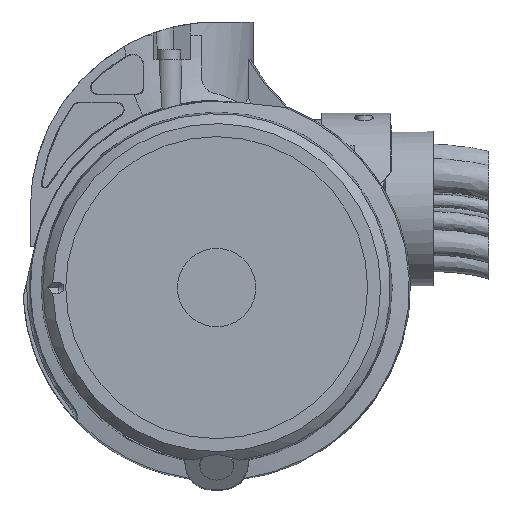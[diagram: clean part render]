
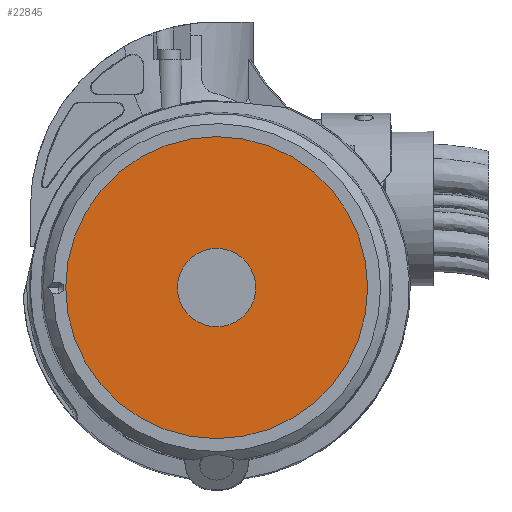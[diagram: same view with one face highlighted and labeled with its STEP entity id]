
A CAD part, left-side view. The second image highlights one B-rep face of the part: STEP entity #22845.
In plain terms, the highlighted planar face has unit normal (-1, 0, 0).
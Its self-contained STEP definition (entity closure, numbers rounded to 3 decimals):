
#3386 = EDGE_LOOP ( 'NONE', ( #11063 ) ) ;
#4537 = CARTESIAN_POINT ( 'NONE',  ( 1747.5, 0., 2205. ) ) ;
#5093 = DIRECTION ( 'NONE',  ( -1., 0., 0. ) ) ;
#5347 = FACE_OUTER_BOUND ( 'NONE', #3386, .T. ) ;
#5809 = AXIS2_PLACEMENT_3D ( 'NONE', #23955, #5093, #19833 ) ;
#6353 = CIRCLE ( 'NONE', #20006, 21. ) ;
#6859 = DIRECTION ( 'NONE',  ( 0., -1., 0. ) ) ;
#7203 = DIRECTION ( 'NONE',  ( 0., -1., 0. ) ) ;
#7562 = FACE_BOUND ( 'NONE', #12850, .T. ) ;
#8684 = EDGE_CURVE ( 'NONE', #26411, #26411, #6353, .T. ) ;
#11063 = ORIENTED_EDGE ( 'NONE', *, *, #23229, .T. ) ;
#12850 = EDGE_LOOP ( 'NONE', ( #19017 ) ) ;
#12930 = CIRCLE ( 'NONE', #21274, 81. ) ;
#14939 = DIRECTION ( 'NONE',  ( -1., 0., 0. ) ) ;
#15620 = PLANE ( 'NONE',  #5809 ) ;
#15943 = DIRECTION ( 'NONE',  ( -1., 0., 0. ) ) ;
#15961 = CARTESIAN_POINT ( 'NONE',  ( 1747.5, -21., 2205. ) ) ;
#19017 = ORIENTED_EDGE ( 'NONE', *, *, #8684, .F. ) ;
#19833 = DIRECTION ( 'NONE',  ( 0., -1., 0. ) ) ;
#20006 = AXIS2_PLACEMENT_3D ( 'NONE', #24017, #15943, #7203 ) ;
#21274 = AXIS2_PLACEMENT_3D ( 'NONE', #4537, #14939, #6859 ) ;
#21567 = VERTEX_POINT ( 'NONE', #23069 ) ;
#22845 = ADVANCED_FACE ( 'NONE', ( #5347, #7562 ), #15620, .T. ) ;
#23069 = CARTESIAN_POINT ( 'NONE',  ( 1747.5, -81., 2205. ) ) ;
#23229 = EDGE_CURVE ( 'NONE', #21567, #21567, #12930, .T. ) ;
#23955 = CARTESIAN_POINT ( 'NONE',  ( 1747.5, 21., 2205. ) ) ;
#24017 = CARTESIAN_POINT ( 'NONE',  ( 1747.5, 0., 2205. ) ) ;
#26411 = VERTEX_POINT ( 'NONE', #15961 ) ;
